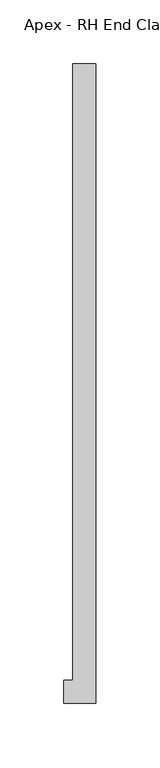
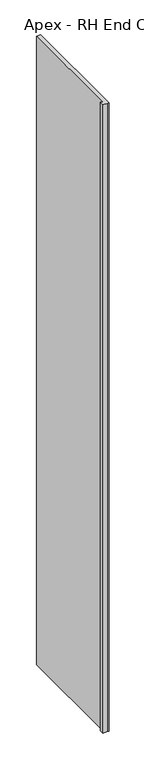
"""IFC4 building model written with IfcOpenShell, lengths in millimetres: furniture geometry, Apex - RH End Clad : RH End clad."""

from ifc_helpers import new_model, si_unit, origin, origin_with_axes, place, context, project, spatial, polyline, outline, extrude, source, transform, mapped, element, save


def apex_rh_end_clad_rh_end_clad_12976203(model_context):
    return source(origin(), model_context, "Body", "SweptSolid", [
        extrude(outline(polyline([(7.0, 0.0), (25.0, 0.0), (25.0, -500.0), (21.0998209, -500.0), (0.0, -500.0), (0.0, -482.0), (7.0, -482.0), (7.0, 0.0)])), origin_with_axes(), (0.0, 0.0, 1.0), 2800.0),
    ])


if __name__ == "__main__":
    model = new_model("IFC4")
    model_context = context("Model", 3, world=origin())
    ifc_project = project(units=[si_unit("LENGTHUNIT", "METRE", prefix="MILLI")], contexts=[model_context])
    site = spatial("IfcSite", under=ifc_project)
    building = spatial("IfcBuilding", under=site)
    placement = place(None, origin())
    apex_rh_end_clad_rh_end_clad_shape = apex_rh_end_clad_rh_end_clad_12976203(model_context)
    element("IfcFurniture", 1, ObjectType="Apex - RH End Clad : RH End clad", at=placement, inside=building, context=model_context, shape_type="MappedRepresentation", body=[
        mapped(apex_rh_end_clad_rh_end_clad_shape, transform((0.0, 0.0, 0.0), x_axis=(1.0, 0.0, 0.0), y_axis=(0.0, 1.0, 0.0), z_axis=(0.0, 0.0, 1.0))),
    ])
    save(model, "model.ifc")
